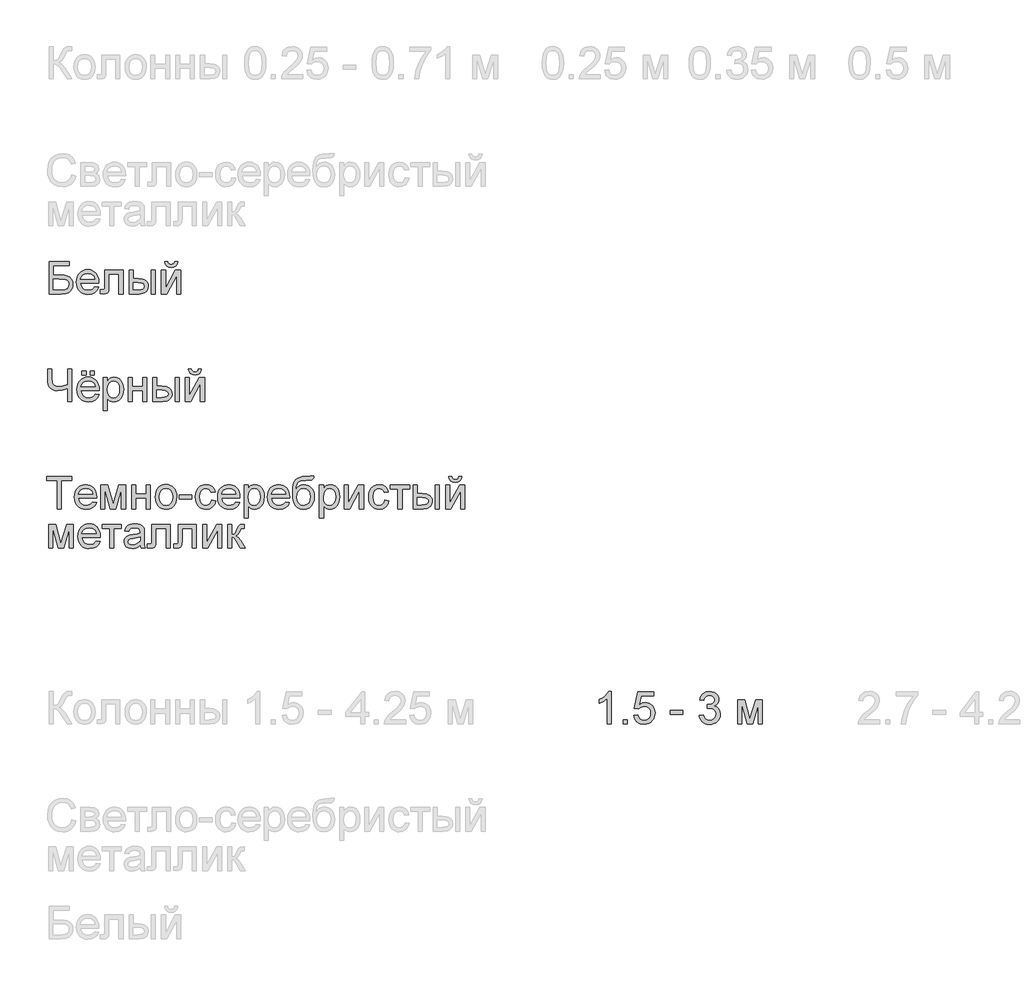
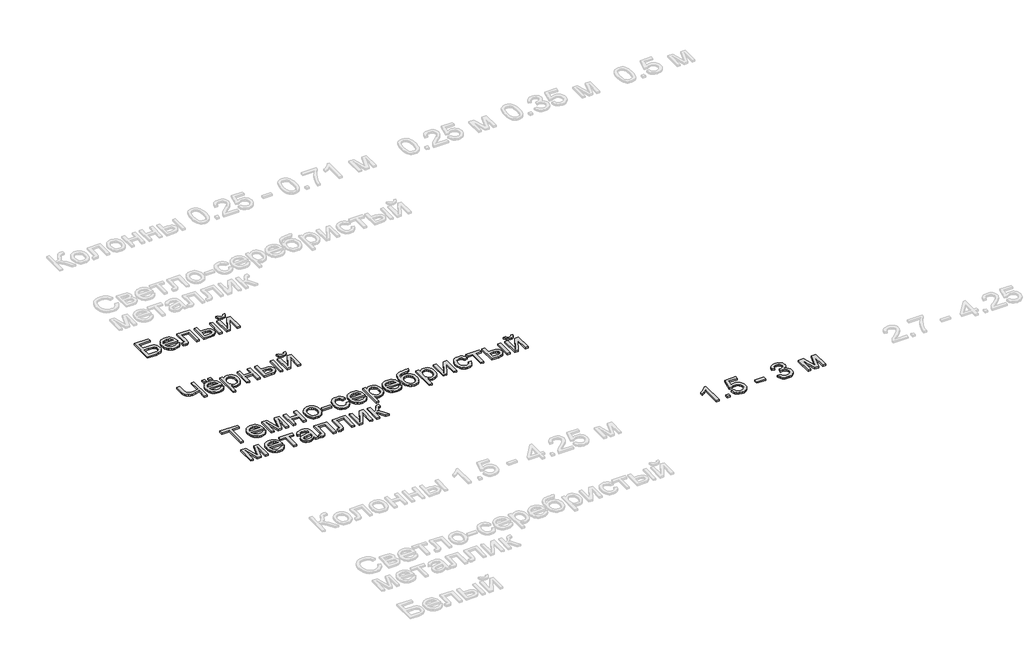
# One storey, part 10 of 168: 4 proxies.
"""IFC4 building model written with IfcOpenShell, lengths in millimetres."""

from ifc_helpers import new_model, si_unit, origin, origin_with_axes, place, context, project, spatial, polyline, outline, extrude, element, save

model = new_model("IFC4")

# Units and contexts
model_context = context("Model", 3, world=origin())
ifc_project = project(units=[si_unit("LENGTHUNIT", "METRE", prefix="MILLI")], contexts=[model_context])

# Site, building, storey
site = spatial("IfcSite", under=ifc_project)
building = spatial("IfcBuilding", under=site)
storey = spatial("IfcBuildingStorey", under=building, Name="Этаж 01", Elevation=0.0)

# Proxies
placement = place(None, origin())
element("IfcBuildingElementProxy", 1, Name="300 мм Arial 2", ObjectType="300 мм Arial 2", at=placement, inside=storey, context=model_context, shape_type="SweptSolid", body=[
    extrude(outline(polyline([(778.8177316, -32665.4933673), (967.1733131, -32665.4933673), (967.1733131, -32703.1644836), (816.4888479, -32703.1644836), (816.4888479, -32792.6333848), (887.0486145, -32792.6333848), (922.1261628, -32794.5463712), (949.2206717, -32800.2853303), (970.0243986, -32811.3401843), (986.2296004, -32829.2008551), (996.659055, -32852.1934798), (1000.1355399, -32878.6441953), (997.6615334, -32900.8550707), (990.2395142, -32921.5760241), (977.9062703, -32939.7218035), (960.69859, -32954.2071571), (934.155904, -32963.6985126), (893.8176433, -32966.8622977), (778.8177316, -32966.8622977), (778.8177316, -32665.4933673)]), holes=[polyline([(816.4888479, -32929.1911814), (897.2021576, -32929.1911814), (925.7314063, -32926.0825786), (946.130463, -32916.75677), (958.3809334, -32901.2137557), (962.4644236, -32879.4535357), (960.1283729, -32863.2483338), (953.1202209, -32849.9493997), (941.9458053, -32840.0901622), (927.1109638, -32834.2040503), (870.346772, -32830.3045011), (816.4888479, -32830.3045011), (816.4888479, -32929.1911814)])]), origin_with_axes(), (0.0, 0.0, 1.0), 20.0),
    extrude(outline(polyline([(1202.1763316, -32900.9378442), (1239.1116839, -32905.6467337), (1225.8035528, -32933.4770067), (1204.5675646, -32954.2807335), (1175.881966, -32967.2485738), (1140.2250036, -32971.5711873), (1116.8507014, -32969.7064854), (1096.0239819, -32964.1123798), (1077.7448453, -32954.7888705), (1062.0132914, -32941.7359575), (1049.3627493, -32925.3169242), (1040.3266478, -32905.8950541), (1034.9049869, -32883.4703472), (1033.0977666, -32858.0428036), (1034.923381, -32831.7530365), (1040.4002242, -32808.5810693), (1049.5282962, -32788.526902), (1062.307597, -32771.5905347), (1077.9977641, -32758.1352507), (1095.858435, -32748.5243336), (1115.8896096, -32742.7577833), (1138.0912881, -32740.8355999), (1159.5778958, -32742.7531848), (1179.008963, -32748.5059395), (1196.3844895, -32758.093864), (1211.7044753, -32771.5169583), (1224.2101639, -32788.4165374), (1233.1427986, -32808.4339165), (1238.5023794, -32831.5690955), (1240.2889063, -32857.8220744), (1240.0681771, -32867.9756174), (1070.7688829, -32867.9756174), (1077.2895913, -32896.1737724), (1092.4371325, -32916.9039228), (1114.29852, -32929.6510339), (1140.9607676, -32933.900071), (1161.0103364, -32931.9319023), (1177.8961199, -32926.0273963), (1191.6181184, -32915.8186709), (1202.1763316, -32900.9378442)]), holes=[polyline([(1070.7688829, -32830.3045011), (1202.61779, -32830.3045011), (1197.5226244, -32810.4020852), (1187.5346282, -32796.165052), (1165.5720731, -32782.9213001), (1137.9441353, -32778.5067162), (1112.5510805, -32782.0291863), (1091.5542157, -32792.5965966), (1076.9584975, -32809.068513), (1070.7688829, -32830.3045011)])]), origin_with_axes(), (0.0, 0.0, 1.0), 20.0),
    extrude(outline(polyline([(1296.7955808, -32745.5444894), (1466.3156041, -32745.5444894), (1466.3156041, -32966.6415685), (1428.6444878, -32966.6415685), (1428.6444878, -32783.2156057), (1334.4666971, -32783.2156057), (1334.4666971, -32888.7977384), (1331.9283113, -32937.5053145), (1327.1734365, -32948.5325773), (1317.9855837, -32958.069918), (1304.0428561, -32964.6642028), (1285.0233569, -32966.8622977), (1254.4155749, -32964.9493114), (1254.4155749, -32929.1911814), (1271.2645703, -32929.1911814), (1288.2975067, -32926.8735249), (1295.1033236, -32919.515885), (1296.7955808, -32886.6640228), (1296.7955808, -32745.5444894)])), origin_with_axes(), (0.0, 0.0, 1.0), 20.0),
    extrude(outline(polyline([(1730.0134183, -32745.5444894), (1767.6845346, -32745.5444894), (1767.6845346, -32966.8622977), (1730.0134183, -32966.8622977), (1730.0134183, -32745.5444894)])), origin_with_axes(), (0.0, 0.0, 1.0), 20.0),
    extrude(outline(polyline([(1522.8222786, -32745.5444894), (1560.4933949, -32745.5444894), (1560.4933949, -32825.5956116), (1607.0672555, -32825.5956116), (1647.3227428, -32830.3136982), (1663.539441, -32836.2113064), (1677.1487756, -32844.4679579), (1687.9162217, -32854.7985442), (1695.6072547, -32866.9179567), (1700.2218745, -32880.8261954), (1701.7600811, -32896.5232603), (1696.6005361, -32923.4798135), (1681.1219011, -32946.2241178), (1669.2600061, -32955.2533215), (1654.3125007, -32961.7027528), (1615.1606594, -32966.8622977), (1522.8222786, -32966.8622977), (1522.8222786, -32745.5444894)]), holes=[polyline([(1560.4933949, -32929.1911814), (1599.1945808, -32929.1911814), (1629.1953575, -32927.2138157), (1649.1529558, -32921.2817185), (1660.3549625, -32911.1557666), (1664.0889648, -32896.5968367), (1661.3206527, -32884.2911839), (1653.0157167, -32873.420271), (1635.2562134, -32865.8051137), (1604.1241995, -32863.2667279), (1560.4933949, -32863.2667279), (1560.4933949, -32929.1911814)])]), origin_with_axes(), (0.0, 0.0, 1.0), 20.0),
    extrude(outline(polyline([(1946.6223371, -32665.4933673), (1974.8756743, -32665.4933673), (1968.7964243, -32689.6172291), (1956.5919391, -32707.3951265), (1938.8140417, -32718.3488129), (1916.0145551, -32722.0000417), (1891.2744909, -32718.3764041), (1872.0894448, -32707.5054911), (1858.9744517, -32689.7551849), (1852.4445463, -32665.4933673), (1880.6978835, -32665.4933673), (1884.6710091, -32677.9001876), (1891.292885, -32686.7201584), (1900.6002995, -32691.990068), (1912.6300407, -32693.7467045), (1926.2048863, -32692.0452503), (1936.0273356, -32686.9408876), (1942.6492115, -32678.1760991), (1946.6223371, -32665.4933673)])), origin_with_axes(), (0.0, 0.0, 1.0), 20.0),
    extrude(outline(polyline([(1824.1912091, -32745.5444894), (1861.8623254, -32745.5444894), (1861.8623254, -32914.3287488), (1954.4214353, -32745.5444894), (2003.1290115, -32745.5444894), (2003.1290115, -32966.8622977), (1965.4578952, -32966.8622977), (1965.4578952, -32799.1081079), (1873.4873964, -32966.8622977), (1824.1912091, -32966.8622977), (1824.1912091, -32745.5444894)])), origin_with_axes(), (0.0, 0.0, 1.0), 20.0),
])
element("IfcBuildingElementProxy", 2, Name="300 мм Arial 2", ObjectType="300 мм Arial 2", at=placement, inside=storey, context=model_context, shape_type="SweptSolid", body=[
    extrude(outline(polyline([(990.7177608, -33966.8622977), (953.0466445, -33966.8622977), (953.0466445, -33846.1970033), (903.0882695, -33862.5309639), (859.7517705, -33867.9756174), (830.3855902, -33864.2508122), (804.6798358, -33853.0763966), (784.7590258, -33836.1722189), (772.7476786, -33815.2581275), (766.7052169, -33788.798215), (764.6910629, -33755.2565741), (764.6910629, -33665.4933673), (802.3621793, -33665.4933673), (802.3621793, -33750.1798026), (806.8871278, -33790.9135365), (812.5433135, -33804.968928), (820.4619734, -33814.8166691), (840.3827835, -33826.4325431), (863.9456252, -33830.3045011), (907.410883, -33825.6323998), (953.0466445, -33811.6160958), (953.0466445, -33665.4933673), (990.7177608, -33665.4933673), (990.7177608, -33966.8622977)])), origin_with_axes(), (0.0, 0.0, 1.0), 20.0),
    extrude(outline(polyline([(1206.8852212, -33900.9378442), (1243.8205735, -33905.6467337), (1230.5124423, -33933.4770067), (1209.2764541, -33954.2807335), (1180.5908555, -33967.2485738), (1144.9338932, -33971.5711873), (1121.5595909, -33969.7064854), (1100.7328714, -33964.1123798), (1082.4537348, -33954.7888705), (1066.722181, -33941.7359575), (1054.0716389, -33925.3169242), (1045.0355374, -33905.8950541), (1039.6138765, -33883.4703472), (1037.8066562, -33858.0428036), (1039.6322706, -33831.7530365), (1045.1091138, -33808.5810693), (1054.2371858, -33788.526902), (1067.0164866, -33771.5905347), (1082.7066537, -33758.1352507), (1100.5673245, -33748.5243336), (1120.5984992, -33742.7577833), (1142.8001776, -33740.8355999), (1164.2867854, -33742.7531848), (1183.7178525, -33748.5059395), (1201.093379, -33758.093864), (1216.4133648, -33771.5169583), (1228.9190534, -33788.4165374), (1237.8516881, -33808.4339165), (1243.2112689, -33831.5690955), (1244.9977959, -33857.8220744), (1244.7770667, -33867.9756174), (1075.4777725, -33867.9756174), (1081.9984808, -33896.1737724), (1097.146022, -33916.9039228), (1119.0074096, -33929.6510339), (1145.6696572, -33933.900071), (1165.7192259, -33931.9319023), (1182.6050095, -33926.0273963), (1196.3270079, -33915.8186709), (1206.8852212, -33900.9378442)]), holes=[polyline([(1075.4777725, -33830.3045011), (1207.3266795, -33830.3045011), (1202.2315139, -33810.4020852), (1192.2435177, -33796.165052), (1170.2809626, -33782.9213001), (1142.6530248, -33778.5067162), (1117.2599701, -33782.0291863), (1096.2631052, -33792.5965966), (1081.667387, -33809.068513), (1075.4777725, -33830.3045011)])]), origin_with_axes(), (0.0, 0.0, 1.0), 20.0),
    extrude(outline(polyline([(1084.8955515, -33722.0000417), (1084.8955515, -33684.3289254), (1122.5666679, -33684.3289254), (1122.5666679, -33722.0000417), (1084.8955515, -33722.0000417)])), origin_with_axes(), (0.0, 0.0, 1.0), 20.0),
    extrude(outline(polyline([(1160.2377842, -33722.0000417), (1160.2377842, -33684.3289254), (1197.9089005, -33684.3289254), (1197.9089005, -33722.0000417), (1160.2377842, -33722.0000417)])), origin_with_axes(), (0.0, 0.0, 1.0), 20.0),
    extrude(outline(polyline([(1282.6689122, -34051.6223094), (1282.6689122, -33745.5444894), (1320.3400285, -33745.5444894), (1320.3400285, -33782.4798418), (1332.6272871, -33764.2604859), (1346.3860737, -33751.2466604), (1362.4257287, -33743.438365), (1381.5555925, -33740.8355999), (1407.0314206, -33744.4776316), (1429.3066754, -33755.4037269), (1447.4432578, -33772.9516981), (1460.5030686, -33796.4593576), (1468.3941374, -33824.2160541), (1471.0244937, -33854.5111364), (1468.0538466, -33886.7284021), (1459.1419052, -33915.5427594), (1444.5737782, -33939.4918773), (1424.6345741, -33957.1134249), (1401.4120231, -33967.9567467), (1376.9938557, -33971.5711873), (1359.6758108, -33969.1523632), (1344.2155699, -33961.8958908), (1330.9810152, -33950.9422044), (1320.3400285, -33937.4317381), (1320.3400285, -34051.6223094), (1282.6689122, -34051.6223094)]), holes=[polyline([(1320.3400285, -33857.9692272), (1324.4143216, -33891.7407943), (1336.6372008, -33915.3588184), (1354.6726157, -33929.2647578), (1376.1845153, -33933.900071), (1398.0459029, -33929.0992109), (1416.5411702, -33914.6966308), (1429.1503256, -33890.214084), (1433.3533774, -33855.173324), (1429.2514931, -33821.5856978), (1416.9458404, -33797.63658), (1398.9380167, -33783.2891821), (1377.7296197, -33778.5067162), (1356.4384492, -33783.5926848), (1337.7408468, -33798.8505905), (1324.6902331, -33823.8021869), (1320.3400285, -33857.9692272)])]), origin_with_axes(), (0.0, 0.0, 1.0), 20.0),
    extrude(outline(polyline([(1513.4044995, -33745.5444894), (1551.0756158, -33745.5444894), (1551.0756158, -33830.3045011), (1649.9622961, -33830.3045011), (1649.9622961, -33745.5444894), (1687.6334124, -33745.5444894), (1687.6334124, -33966.8622977), (1649.9622961, -33966.8622977), (1649.9622961, -33867.9756174), (1551.0756158, -33867.9756174), (1551.0756158, -33966.8622977), (1513.4044995, -33966.8622977), (1513.4044995, -33745.5444894)])), origin_with_axes(), (0.0, 0.0, 1.0), 20.0),
    extrude(outline(polyline([(1951.3312266, -33745.5444894), (1989.0023429, -33745.5444894), (1989.0023429, -33966.8622977), (1951.3312266, -33966.8622977), (1951.3312266, -33745.5444894)])), origin_with_axes(), (0.0, 0.0, 1.0), 20.0),
    extrude(outline(polyline([(1744.1400869, -33745.5444894), (1781.8112032, -33745.5444894), (1781.8112032, -33825.5956116), (1828.3850638, -33825.5956116), (1868.6405511, -33830.3136982), (1884.8572493, -33836.2113064), (1898.4665839, -33844.4679579), (1909.23403, -33854.7985442), (1916.925063, -33866.9179567), (1921.5396828, -33880.8261954), (1923.0778894, -33896.5232603), (1917.9183444, -33923.4798135), (1902.4397094, -33946.2241178), (1890.5778143, -33955.2533215), (1875.630309, -33961.7027528), (1836.4784677, -33966.8622977), (1744.1400869, -33966.8622977), (1744.1400869, -33745.5444894)]), holes=[polyline([(1781.8112032, -33929.1911814), (1820.5123891, -33929.1911814), (1850.5131658, -33927.2138157), (1870.4707641, -33921.2817185), (1881.6727708, -33911.1557666), (1885.4067731, -33896.5968367), (1882.638461, -33884.2911839), (1874.333525, -33873.420271), (1856.5740217, -33865.8051137), (1825.4420078, -33863.2667279), (1781.8112032, -33863.2667279), (1781.8112032, -33929.1911814)])]), origin_with_axes(), (0.0, 0.0, 1.0), 20.0),
    extrude(outline(polyline([(2045.5090174, -33745.5444894), (2083.1801337, -33745.5444894), (2083.1801337, -33914.3287488), (2175.7392436, -33745.5444894), (2224.4468198, -33745.5444894), (2224.4468198, -33966.8622977), (2186.7757035, -33966.8622977), (2186.7757035, -33799.1081079), (2094.8052047, -33966.8622977), (2045.5090174, -33966.8622977), (2045.5090174, -33745.5444894)])), origin_with_axes(), (0.0, 0.0, 1.0), 20.0),
    extrude(outline(polyline([(2167.9401454, -33665.4933673), (2196.1934826, -33665.4933673), (2190.1142326, -33689.6172291), (2177.9097474, -33707.3951265), (2160.13185, -33718.3488129), (2137.3323634, -33722.0000417), (2112.5922992, -33718.3764041), (2093.4072531, -33707.5054911), (2080.29226, -33689.7551849), (2073.7623546, -33665.4933673), (2102.0156918, -33665.4933673), (2105.9888174, -33677.9001876), (2112.6106933, -33686.7201584), (2121.9181078, -33691.990068), (2133.947849, -33693.7467045), (2147.5226946, -33692.0452503), (2157.3451439, -33686.9408876), (2163.9670198, -33678.1760991), (2167.9401454, -33665.4933673)])), origin_with_axes(), (0.0, 0.0, 1.0), 20.0),
])
element("IfcBuildingElementProxy", 3, Name="300 мм Arial 2", ObjectType="300 мм Arial 2", at=placement, inside=storey, context=model_context, shape_type="SweptSolid", body=[
    extrude(outline(polyline([(854.1599642, -34966.8622977), (854.1599642, -34703.1644836), (755.2732839, -34703.1644836), (755.2732839, -34665.4933673), (990.7177608, -34665.4933673), (990.7177608, -34703.1644836), (891.8310805, -34703.1644836), (891.8310805, -34966.8622977), (854.1599642, -34966.8622977)])), origin_with_axes(), (0.0, 0.0, 1.0), 20.0),
    extrude(outline(polyline([(1183.3407735, -34900.9378442), (1220.2761258, -34905.6467337), (1206.9679946, -34933.4770067), (1185.7320064, -34954.2807335), (1157.0464079, -34967.2485738), (1121.3894455, -34971.5711873), (1098.0151432, -34969.7064854), (1077.1884238, -34964.1123798), (1058.9092871, -34954.7888705), (1043.1777333, -34941.7359575), (1030.5271912, -34925.3169242), (1021.4910897, -34905.8950541), (1016.0694288, -34883.4703472), (1014.2622085, -34858.0428036), (1016.0878229, -34831.7530365), (1021.5646661, -34808.5810693), (1030.6927381, -34788.526902), (1043.4720389, -34771.5905347), (1059.162206, -34758.1352507), (1077.0228769, -34748.5243336), (1097.0540515, -34742.7577833), (1119.2557299, -34740.8355999), (1140.7423377, -34742.7531848), (1160.1734048, -34748.5059395), (1177.5489313, -34758.093864), (1192.8689171, -34771.5169583), (1205.3746057, -34788.4165374), (1214.3072404, -34808.4339165), (1219.6668212, -34831.5690955), (1221.4533482, -34857.8220744), (1221.232619, -34867.9756174), (1051.9333248, -34867.9756174), (1058.4540331, -34896.1737724), (1073.6015743, -34916.9039228), (1095.4629619, -34929.6510339), (1122.1252095, -34933.900071), (1142.1747782, -34931.9319023), (1159.0605618, -34926.0273963), (1172.7825602, -34915.8186709), (1183.3407735, -34900.9378442)]), holes=[polyline([(1051.9333248, -34830.3045011), (1183.7822319, -34830.3045011), (1178.6870662, -34810.4020852), (1168.6990701, -34796.165052), (1146.7365149, -34782.9213001), (1119.1085771, -34778.5067162), (1093.7155224, -34782.0291863), (1072.7186575, -34792.5965966), (1058.1229394, -34809.068513), (1051.9333248, -34830.3045011)])]), origin_with_axes(), (0.0, 0.0, 1.0), 20.0),
    extrude(outline(polyline([(1259.1244645, -34745.5444894), (1323.945272, -34745.5444894), (1373.903647, -34922.7164583), (1427.7615711, -34745.5444894), (1489.8600518, -34745.5444894), (1489.8600518, -34966.8622977), (1452.1889355, -34966.8622977), (1452.1889355, -34788.6602593), (1398.0367058, -34966.8622977), (1348.5933657, -34966.8622977), (1296.7955808, -34780.125397), (1296.7955808, -34966.8622977), (1259.1244645, -34966.8622977), (1259.1244645, -34745.5444894)])), origin_with_axes(), (0.0, 0.0, 1.0), 20.0),
    extrude(outline(polyline([(1546.3667263, -34745.5444894), (1584.0378426, -34745.5444894), (1584.0378426, -34830.3045011), (1682.9245229, -34830.3045011), (1682.9245229, -34745.5444894), (1720.5956392, -34745.5444894), (1720.5956392, -34966.8622977), (1682.9245229, -34966.8622977), (1682.9245229, -34867.9756174), (1584.0378426, -34867.9756174), (1584.0378426, -34966.8622977), (1546.3667263, -34966.8622977), (1546.3667263, -34745.5444894)])), origin_with_axes(), (0.0, 0.0, 1.0), 20.0),
    extrude(outline(polyline([(1767.6845346, -34856.2033936), (1769.7216811, -34827.5407876), (1775.8331208, -34802.8421102), (1786.0188535, -34782.1073612), (1800.2788794, -34765.3365408), (1814.6354742, -34754.6173791), (1830.4819912, -34746.9608351), (1847.8184302, -34742.3669087), (1866.6447913, -34740.8355999), (1887.4278248, -34742.7003018), (1906.2196969, -34748.2944073), (1923.0204078, -34757.6179167), (1937.8299574, -34770.6708297), (1949.9171802, -34787.0116881), (1958.5509107, -34806.1990334), (1963.7311491, -34828.2328656), (1965.4578952, -34853.1131848), (1962.4044746, -34891.1705772), (1953.244213, -34920.1412843), (1938.2438246, -34941.837125), (1917.670024, -34958.069918), (1893.2334625, -34968.19587), (1866.6447913, -34971.5711873), (1845.5582552, -34969.7133832), (1826.5916391, -34964.139971), (1809.744943, -34954.8509506), (1795.0181668, -34941.8463221), (1783.0597027, -34925.3468146), (1774.5179427, -34905.5731573), (1769.3928866, -34882.5253503), (1767.6845346, -34856.2033936)]), holes=[polyline([(1805.3556509, -34856.1298172), (1809.7150525, -34890.2232811), (1822.7932575, -34914.5126898), (1842.4749442, -34929.0532257), (1866.6447913, -34933.900071), (1890.7042738, -34929.0256345), (1910.3491723, -34914.4023252), (1923.4273773, -34889.7910197), (1927.7867789, -34854.9525948), (1923.3997861, -34821.8524123), (1910.2388077, -34797.8940973), (1890.566318, -34783.3535615), (1866.6447913, -34778.5067162), (1842.4749442, -34783.3351674), (1822.7932575, -34797.8205209), (1809.7150525, -34822.0547474), (1805.3556509, -34856.1298172)])]), origin_with_axes(), (0.0, 0.0, 1.0), 20.0),
    extrude(outline(polyline([(1989.0023429, -34877.3933965), (1989.0023429, -34839.7222802), (2106.7245814, -34839.7222802), (2106.7245814, -34877.3933965), (1989.0023429, -34877.3933965)])), origin_with_axes(), (0.0, 0.0, 1.0), 20.0),
    extrude(outline(polyline([(2290.3712733, -34886.8111756), (2328.0423897, -34891.5200651), (2317.5393587, -34925.0249178), (2297.8024896, -34950.3443962), (2270.6895866, -34966.2644895), (2238.0584536, -34971.5711873), (2216.9305308, -34969.720281), (2197.9869073, -34964.1675621), (2181.2275832, -34954.9130307), (2166.6525584, -34941.9566867), (2154.8550426, -34925.5422519), (2146.4282457, -34905.9134482), (2141.3721675, -34883.0702755), (2139.6868081, -34857.012734), (2142.5654847, -34823.4894872), (2151.2015146, -34794.4360066), (2165.7328534, -34770.9743324), (2186.2974569, -34754.2265045), (2210.8995653, -34744.1833261), (2237.5434188, -34740.8355999), (2269.3744085, -34745.4341248), (2294.8226455, -34759.2296997), (2313.0787895, -34781.4865604), (2323.3335001, -34811.468943), (2285.6623838, -34816.1778325), (2278.8289757, -34799.7427044), (2268.187989, -34787.9612835), (2254.3280349, -34780.870358), (2237.8377244, -34778.5067162), (2213.4931334, -34783.1604234), (2194.1701316, -34797.1215452), (2181.5609762, -34821.1442394), (2177.3579244, -34855.9826644), (2181.4690057, -34891.2901389), (2193.8022496, -34915.3956066), (2212.7757635, -34929.2739549), (2236.8076548, -34933.900071), (2256.3145976, -34931.0121973), (2272.3082674, -34922.3485763), (2283.9425355, -34907.6884788), (2290.3712733, -34886.8111756)])), origin_with_axes(), (0.0, 0.0, 1.0), 20.0),
    extrude(outline(polyline([(2515.9565128, -34900.9378442), (2552.8918651, -34905.6467337), (2539.5837339, -34933.4770067), (2518.3477458, -34954.2807335), (2489.6621472, -34967.2485738), (2454.0051848, -34971.5711873), (2430.6308825, -34969.7064854), (2409.8041631, -34964.1123798), (2391.5250264, -34954.7888705), (2375.7934726, -34941.7359575), (2363.1429305, -34925.3169242), (2354.106829, -34905.8950541), (2348.6851681, -34883.4703472), (2346.8779478, -34858.0428036), (2348.7035622, -34831.7530365), (2354.1804054, -34808.5810693), (2363.3084774, -34788.526902), (2376.0877782, -34771.5905347), (2391.7779453, -34758.1352507), (2409.6386162, -34748.5243336), (2429.6697908, -34742.7577833), (2451.8714692, -34740.8355999), (2473.358077, -34742.7531848), (2492.7891441, -34748.5059395), (2510.1646706, -34758.093864), (2525.4846565, -34771.5169583), (2537.990345, -34788.4165374), (2546.9229797, -34808.4339165), (2552.2825605, -34831.5690955), (2554.0690875, -34857.8220744), (2553.8483583, -34867.9756174), (2384.5490641, -34867.9756174), (2391.0697725, -34896.1737724), (2406.2173136, -34916.9039228), (2428.0787012, -34929.6510339), (2454.7409488, -34933.900071), (2474.7905175, -34931.9319023), (2491.6763011, -34926.0273963), (2505.3982995, -34915.8186709), (2515.9565128, -34900.9378442)]), holes=[polyline([(2384.5490641, -34830.3045011), (2516.3979712, -34830.3045011), (2511.3028055, -34810.4020852), (2501.3148094, -34796.165052), (2479.3522543, -34782.9213001), (2451.7243164, -34778.5067162), (2426.3312617, -34782.0291863), (2405.3343968, -34792.5965966), (2390.7386787, -34809.068513), (2384.5490641, -34830.3045011)])]), origin_with_axes(), (0.0, 0.0, 1.0), 20.0),
    extrude(outline(polyline([(2591.7402038, -35051.6223094), (2591.7402038, -34745.5444894), (2629.4113201, -34745.5444894), (2629.4113201, -34782.4798418), (2641.6985787, -34764.2604859), (2655.4573654, -34751.2466604), (2671.4970203, -34743.438365), (2690.6268841, -34740.8355999), (2716.1027123, -34744.4776316), (2738.3779671, -34755.4037269), (2756.5145494, -34772.9516981), (2769.5743603, -34796.4593576), (2777.4654291, -34824.2160541), (2780.0957853, -34854.5111364), (2777.1251382, -34886.7284021), (2768.2131969, -34915.5427594), (2753.6450699, -34939.4918773), (2733.7058657, -34957.1134249), (2710.4833148, -34967.9567467), (2686.0651474, -34971.5711873), (2668.7471024, -34969.1523632), (2653.2868616, -34961.8958908), (2640.0523068, -34950.9422044), (2629.4113201, -34937.4317381), (2629.4113201, -35051.6223094), (2591.7402038, -35051.6223094)]), holes=[polyline([(2629.4113201, -34857.9692272), (2633.4856132, -34891.7407943), (2645.7084925, -34915.3588184), (2663.7439073, -34929.2647578), (2685.255807, -34933.900071), (2707.1171945, -34929.0992109), (2725.6124618, -34914.6966308), (2738.2216172, -34890.214084), (2742.424669, -34855.173324), (2738.3227848, -34821.5856978), (2726.017132, -34797.63658), (2708.0093084, -34783.2891821), (2686.8009113, -34778.5067162), (2665.5097409, -34783.5926848), (2646.8121385, -34798.8505905), (2633.7615247, -34823.8021869), (2629.4113201, -34857.9692272)])]), origin_with_axes(), (0.0, 0.0, 1.0), 20.0),
    extrude(outline(polyline([(2977.4276875, -34900.9378442), (3014.3630399, -34905.6467337), (3001.0549087, -34933.4770067), (2979.8189205, -34954.2807335), (2951.1333219, -34967.2485738), (2915.4763595, -34971.5711873), (2892.1020573, -34969.7064854), (2871.2753378, -34964.1123798), (2852.9962012, -34954.7888705), (2837.2646474, -34941.7359575), (2824.6141053, -34925.3169242), (2815.5780038, -34905.8950541), (2810.1563429, -34883.4703472), (2808.3491226, -34858.0428036), (2810.174737, -34831.7530365), (2815.6515802, -34808.5810693), (2824.7796522, -34788.526902), (2837.558953, -34771.5905347), (2853.2491201, -34758.1352507), (2871.1097909, -34748.5243336), (2891.1409656, -34742.7577833), (2913.342644, -34740.8355999), (2934.8292518, -34742.7531848), (2954.2603189, -34748.5059395), (2971.6358454, -34758.093864), (2986.9558312, -34771.5169583), (2999.4615198, -34788.4165374), (3008.3941545, -34808.4339165), (3013.7537353, -34831.5690955), (3015.5402622, -34857.8220744), (3015.319533, -34867.9756174), (2846.0202389, -34867.9756174), (2852.5409472, -34896.1737724), (2867.6884884, -34916.9039228), (2889.5498759, -34929.6510339), (2916.2121235, -34933.900071), (2936.2616923, -34931.9319023), (2953.1474759, -34926.0273963), (2966.8694743, -34915.8186709), (2977.4276875, -34900.9378442)]), holes=[polyline([(2846.0202389, -34830.3045011), (2977.8691459, -34830.3045011), (2972.7739803, -34810.4020852), (2962.7859841, -34796.165052), (2940.823429, -34782.9213001), (2913.1954912, -34778.5067162), (2887.8024365, -34782.0291863), (2866.8055716, -34792.5965966), (2852.2098534, -34809.068513), (2846.0202389, -34830.3045011)])]), origin_with_axes(), (0.0, 0.0, 1.0), 20.0),
    extrude(outline(polyline([(3208.6047333, -34660.7844777), (3241.5669601, -34660.7844777), (3237.9985047, -34678.6911339), (3231.8548754, -34690.1782492), (3223.3384072, -34696.974869), (3212.6514353, -34700.8100388), (3166.5190331, -34703.1644836), (3128.2133203, -34705.3349874), (3104.3837641, -34711.8464987), (3090.1283368, -34723.1404759), (3080.5450108, -34739.6583775), (3074.9072192, -34761.5289621), (3072.4883951, -34788.8809885), (3087.6359362, -34767.8381383), (3105.1195281, -34752.8285529), (3124.9575647, -34743.8338382), (3147.1684401, -34740.8355999), (3167.6916569, -34742.7416885), (3186.3662667, -34748.4599542), (3203.1922695, -34757.9903972), (3218.1696652, -34771.3330173), (3230.4661209, -34787.9267945), (3239.2493035, -34807.2107089), (3244.5192131, -34829.1847603), (3246.2758496, -34853.8489488), (3242.7901677, -34889.8094138), (3232.333122, -34918.6697564), (3217.0936103, -34941.101361), (3199.2605306, -34957.7756125), (3176.6725761, -34968.1222936), (3147.1684401, -34971.5711873), (3113.1669467, -34967.1290122), (3087.6819215, -34953.8024869), (3068.9291368, -34933.5505831), (3055.1243649, -34908.3322723), (3046.6262908, -34870.3576533), (3043.7935995, -34811.836825), (3045.5801264, -34772.1722481), (3050.9397072, -34739.55721), (3059.8723419, -34713.9917106), (3072.3780305, -34695.4757499), (3088.5901302, -34682.3584575), (3108.6419982, -34672.9889629), (3132.5336345, -34667.3672662), (3160.2650391, -34665.4933673), (3202.2035866, -34664.6472387), (3208.6047333, -34660.7844777)]), holes=[polyline([(3208.6047333, -34852.6717264), (3204.5212432, -34823.0296347), (3192.2707727, -34799.2920489), (3172.589086, -34783.7030494), (3146.2119469, -34778.5067162), (3118.7127678, -34783.997355), (3107.6257242, -34790.8606535), (3098.3137112, -34800.4692713), (3085.6769646, -34826.1198434), (3081.4647158, -34859.1464495), (3086.118423, -34891.1613802), (3100.0795447, -34914.6598426), (3120.8648775, -34929.0900139), (3145.9912177, -34933.900071), (3171.2463167, -34928.3358558), (3191.2407031, -34911.6432103), (3204.2637258, -34885.7719089), (3208.6047333, -34852.6717264)])]), origin_with_axes(), (0.0, 0.0, 1.0), 20.0),
    extrude(outline(polyline([(3293.364745, -35051.6223094), (3293.364745, -34745.5444894), (3331.0358613, -34745.5444894), (3331.0358613, -34782.4798418), (3343.3231199, -34764.2604859), (3357.0819066, -34751.2466604), (3373.1215615, -34743.438365), (3392.2514253, -34740.8355999), (3417.7272535, -34744.4776316), (3440.0025083, -34755.4037269), (3458.1390906, -34772.9516981), (3471.1989015, -34796.4593576), (3479.0899703, -34824.2160541), (3481.7203265, -34854.5111364), (3478.7496794, -34886.7284021), (3469.8377381, -34915.5427594), (3455.2696111, -34939.4918773), (3435.3304069, -34957.1134249), (3412.107856, -34967.9567467), (3387.6896886, -34971.5711873), (3370.3716436, -34969.1523632), (3354.9114028, -34961.8958908), (3341.676848, -34950.9422044), (3331.0358613, -34937.4317381), (3331.0358613, -35051.6223094), (3293.364745, -35051.6223094)]), holes=[polyline([(3331.0358613, -34857.9692272), (3335.1101544, -34891.7407943), (3347.3330337, -34915.3588184), (3365.3684485, -34929.2647578), (3386.8803482, -34933.900071), (3408.7417357, -34929.0992109), (3427.237003, -34914.6966308), (3439.8461584, -34890.214084), (3444.0492102, -34855.173324), (3439.947326, -34821.5856978), (3427.6416732, -34797.63658), (3409.6338496, -34783.2891821), (3388.4254525, -34778.5067162), (3367.1342821, -34783.5926848), (3348.4366797, -34798.8505905), (3335.3860659, -34823.8021869), (3331.0358613, -34857.9692272)])]), origin_with_axes(), (0.0, 0.0, 1.0), 20.0),
    extrude(outline(polyline([(3524.1003324, -34745.5444894), (3561.7714487, -34745.5444894), (3561.7714487, -34914.3287488), (3654.3305587, -34745.5444894), (3703.0381348, -34745.5444894), (3703.0381348, -34966.8622977), (3665.3670185, -34966.8622977), (3665.3670185, -34799.1081079), (3573.3965197, -34966.8622977), (3524.1003324, -34966.8622977), (3524.1003324, -34745.5444894)])), origin_with_axes(), (0.0, 0.0, 1.0), 20.0),
    extrude(outline(polyline([(3900.8114954, -34886.8111756), (3938.4826117, -34891.5200651), (3927.9795808, -34925.0249178), (3908.2427117, -34950.3443962), (3881.1298087, -34966.2644895), (3848.4986757, -34971.5711873), (3827.3707529, -34969.720281), (3808.4271294, -34964.1675621), (3791.6678052, -34954.9130307), (3777.0927805, -34941.9566867), (3765.2952647, -34925.5422519), (3756.8684678, -34905.9134482), (3751.8123896, -34883.0702755), (3750.1270302, -34857.012734), (3753.0057068, -34823.4894872), (3761.6417367, -34794.4360066), (3776.1730755, -34770.9743324), (3796.737679, -34754.2265045), (3821.3397874, -34744.1833261), (3847.9836409, -34740.8355999), (3879.8146306, -34745.4341248), (3905.2628676, -34759.2296997), (3923.5190116, -34781.4865604), (3933.7737222, -34811.468943), (3896.1026059, -34816.1778325), (3889.2691978, -34799.7427044), (3878.6282111, -34787.9612835), (3864.768257, -34780.870358), (3848.2779465, -34778.5067162), (3823.9333555, -34783.1604234), (3804.6103537, -34797.1215452), (3792.0011983, -34821.1442394), (3787.7981465, -34855.9826644), (3791.9092278, -34891.2901389), (3804.2424717, -34915.3956066), (3823.2159856, -34929.2739549), (3847.2478769, -34933.900071), (3866.7548197, -34931.0121973), (3882.7484895, -34922.3485763), (3894.3827576, -34907.6884788), (3900.8114954, -34886.8111756)])), origin_with_axes(), (0.0, 0.0, 1.0), 20.0),
    extrude(outline(polyline([(3952.6092804, -34745.5444894), (4131.5470828, -34745.5444894), (4131.5470828, -34783.2156057), (4060.9137397, -34783.2156057), (4060.9137397, -34966.8622977), (4023.2426234, -34966.8622977), (4023.2426234, -34783.2156057), (3952.6092804, -34783.2156057), (3952.6092804, -34745.5444894)])), origin_with_axes(), (0.0, 0.0, 1.0), 20.0),
    extrude(outline(polyline([(4371.7004493, -34745.5444894), (4409.3715656, -34745.5444894), (4409.3715656, -34966.8622977), (4371.7004493, -34966.8622977), (4371.7004493, -34745.5444894)])), origin_with_axes(), (0.0, 0.0, 1.0), 20.0),
    extrude(outline(polyline([(4164.5093096, -34745.5444894), (4202.1804259, -34745.5444894), (4202.1804259, -34825.5956116), (4248.7542865, -34825.5956116), (4289.0097738, -34830.3136982), (4305.226472, -34836.2113064), (4318.8358066, -34844.4679579), (4329.6032527, -34854.7985442), (4337.2942857, -34866.9179567), (4341.9089054, -34880.8261954), (4343.447112, -34896.5232603), (4338.287567, -34923.4798135), (4322.8089321, -34946.2241178), (4310.947037, -34955.2533215), (4295.9995317, -34961.7027528), (4256.8476904, -34966.8622977), (4164.5093096, -34966.8622977), (4164.5093096, -34745.5444894)]), holes=[polyline([(4202.1804259, -34929.1911814), (4240.8816118, -34929.1911814), (4270.8823885, -34927.2138157), (4290.8399867, -34921.2817185), (4302.0419935, -34911.1557666), (4305.7759957, -34896.5968367), (4303.0076837, -34884.2911839), (4294.7027477, -34873.420271), (4276.9432443, -34865.8051137), (4245.8112305, -34863.2667279), (4202.1804259, -34863.2667279), (4202.1804259, -34929.1911814)])]), origin_with_axes(), (0.0, 0.0, 1.0), 20.0),
    extrude(outline(polyline([(4465.87824, -34745.5444894), (4503.5493563, -34745.5444894), (4503.5493563, -34914.3287488), (4596.1084663, -34745.5444894), (4644.8160425, -34745.5444894), (4644.8160425, -34966.8622977), (4607.1449262, -34966.8622977), (4607.1449262, -34799.1081079), (4515.1744274, -34966.8622977), (4465.87824, -34966.8622977), (4465.87824, -34745.5444894)])), origin_with_axes(), (0.0, 0.0, 1.0), 20.0),
    extrude(outline(polyline([(4588.309368, -34665.4933673), (4616.5627052, -34665.4933673), (4610.4834553, -34689.6172291), (4598.2789701, -34707.3951265), (4580.5010727, -34718.3488129), (4557.701586, -34722.0000417), (4532.9615218, -34718.3764041), (4513.7764758, -34707.5054911), (4500.6614827, -34689.7551849), (4494.1315773, -34665.4933673), (4522.3849145, -34665.4933673), (4526.35804, -34677.9001876), (4532.9799159, -34686.7201584), (4542.2873304, -34691.990068), (4554.3170717, -34693.7467045), (4567.8919173, -34692.0452503), (4577.7143666, -34686.9408876), (4584.3362425, -34678.1760991), (4588.309368, -34665.4933673)])), origin_with_axes(), (0.0, 0.0, 1.0), 20.0),
    extrude(outline(polyline([(774.108842, -35111.468943), (838.9296496, -35111.468943), (888.8880245, -35288.6409118), (942.7459486, -35111.468943), (1004.8444294, -35111.468943), (1004.8444294, -35332.7867513), (967.1733131, -35332.7867513), (967.1733131, -35154.5847128), (913.0210834, -35332.7867513), (863.5777433, -35332.7867513), (811.7799583, -35146.0498505), (811.7799583, -35332.7867513), (774.108842, -35332.7867513), (774.108842, -35111.468943)])), origin_with_axes(), (0.0, 0.0, 1.0), 20.0),
    extrude(outline(polyline([(1216.3030002, -35266.8622977), (1253.2383525, -35271.5711873), (1239.9302214, -35299.4014602), (1218.6942332, -35320.205187), (1190.0086346, -35333.1730274), (1154.3516722, -35337.4956408), (1130.97737, -35335.6309389), (1110.1506505, -35330.0368334), (1091.8715139, -35320.713324), (1076.1399601, -35307.660411), (1063.489418, -35291.2413777), (1054.4533164, -35271.8195076), (1049.0316555, -35249.3948008), (1047.2244352, -35223.9672571), (1049.0500496, -35197.67749), (1054.5268928, -35174.5055228), (1063.6549649, -35154.4513556), (1076.4342657, -35137.5149882), (1092.1244328, -35124.0597043), (1109.9851036, -35114.4487871), (1130.0162783, -35108.6822369), (1152.2179567, -35106.7600534), (1173.7045644, -35108.6776383), (1193.1356316, -35114.430393), (1210.5111581, -35124.0183175), (1225.8311439, -35137.4414118), (1238.3368325, -35154.340991), (1247.2694672, -35174.35837), (1252.629048, -35197.493549), (1254.4155749, -35223.7465279), (1254.1948457, -35233.900071), (1084.8955515, -35233.900071), (1091.4162599, -35262.0982259), (1106.5638011, -35282.8283763), (1128.4251886, -35295.5754875), (1155.0874362, -35299.8245245), (1175.137005, -35297.8563558), (1192.0227885, -35291.9518498), (1205.744787, -35281.7431244), (1216.3030002, -35266.8622977)]), holes=[polyline([(1084.8955515, -35196.2289547), (1216.7444586, -35196.2289547), (1211.649293, -35176.3265387), (1201.6612968, -35162.0895055), (1179.6987417, -35148.8457537), (1152.0708039, -35144.4311697), (1126.6777492, -35147.9536398), (1105.6808843, -35158.5210502), (1091.0851661, -35174.9929665), (1084.8955515, -35196.2289547)])]), origin_with_axes(), (0.0, 0.0, 1.0), 20.0),
    extrude(outline(polyline([(1273.2511331, -35111.468943), (1452.1889355, -35111.468943), (1452.1889355, -35149.1400593), (1381.5555925, -35149.1400593), (1381.5555925, -35332.7867513), (1343.8844762, -35332.7867513), (1343.8844762, -35149.1400593), (1273.2511331, -35149.1400593), (1273.2511331, -35111.468943)])), origin_with_axes(), (0.0, 0.0, 1.0), 20.0),
    extrude(outline(polyline([(1626.4178484, -35304.533414), (1608.4192218, -35319.9660637), (1589.8871663, -35330.0644245), (1570.3986176, -35335.6378367), (1549.5305115, -35337.4956408), (1518.0490097, -35333.0258746), (1494.8264588, -35319.6165758), (1480.5066521, -35299.2543074), (1475.7333832, -35273.925632), (1477.536005, -35258.3090413), (1482.9438703, -35244.1271904), (1491.2855946, -35231.9870846), (1501.8897931, -35222.4957291), (1528.2669321, -35210.1348941), (1560.8612769, -35204.4695114), (1599.3785218, -35198.509823), (1626.1971193, -35191.5200651), (1626.4178484, -35183.1323556), (1623.8242804, -35166.3201485), (1616.0435762, -35155.3204768), (1598.6427578, -35147.1534965), (1574.3993343, -35144.4311697), (1551.9585326, -35146.2429886), (1536.2867596, -35151.678445), (1525.5997877, -35161.7308206), (1518.1133891, -35177.3933965), (1480.4422728, -35172.684507), (1486.9813752, -35152.0831152), (1496.7394452, -35135.8963075), (1510.6269905, -35123.5170783), (1529.5545191, -35114.3384225), (1552.7034937, -35108.6546457), (1579.2553767, -35106.7600534), (1604.7220078, -35108.4339165), (1624.9095323, -35113.4555057), (1640.1306498, -35121.0062837), (1650.6980601, -35130.2677129), (1657.7062121, -35141.71804), (1662.2495548, -35155.8355116), (1664.0889648, -35188.7977384), (1664.0889648, -35235.6659045), (1666.0019511, -35301.1121115), (1673.5067438, -35332.7867513), (1635.8356275, -35332.7867513), (1626.4178484, -35304.533414)]), holes=[polyline([(1626.4178484, -35229.1911814), (1565.6437428, -35240.7426761), (1533.2333391, -35246.8495172), (1518.5548475, -35256.7823311), (1513.4044995, -35271.2768817), (1516.2095997, -35282.4788884), (1524.6249004, -35291.6575442), (1538.4664605, -35297.7827794), (1557.550339, -35299.8245245), (1577.7838487, -35297.5712473), (1595.6629137, -35290.8114156), (1610.1574643, -35280.8510106), (1620.2374309, -35268.9960133), (1624.7071972, -35256.7823311), (1626.1971193, -35239.8597593), (1626.4178484, -35229.1911814)])]), origin_with_axes(), (0.0, 0.0, 1.0), 20.0),
    extrude(outline(polyline([(1734.7223078, -35111.468943), (1904.2423312, -35111.468943), (1904.2423312, -35332.5660221), (1866.5712149, -35332.5660221), (1866.5712149, -35149.1400593), (1772.3934241, -35149.1400593), (1772.3934241, -35254.7221919), (1769.8550384, -35303.4297681), (1765.1001636, -35314.4570309), (1755.9123108, -35323.9943716), (1741.9695831, -35330.5886563), (1722.950084, -35332.7867513), (1692.342302, -35330.8737649), (1692.342302, -35295.115635), (1709.1912974, -35295.115635), (1726.2242337, -35292.7979784), (1733.0300507, -35285.4403385), (1734.7223078, -35252.5884763), (1734.7223078, -35111.468943)])), origin_with_axes(), (0.0, 0.0, 1.0), 20.0),
    extrude(outline(polyline([(1979.5845638, -35111.468943), (2149.1045872, -35111.468943), (2149.1045872, -35332.5660221), (2111.4334709, -35332.5660221), (2111.4334709, -35149.1400593), (2017.2556801, -35149.1400593), (2017.2556801, -35254.7221919), (2014.7172944, -35303.4297681), (2009.9624196, -35314.4570309), (2000.7745667, -35323.9943716), (1986.8318391, -35330.5886563), (1967.81234, -35332.7867513), (1937.204558, -35330.8737649), (1937.204558, -35295.115635), (1954.0535534, -35295.115635), (1971.0864897, -35292.7979784), (1977.8923066, -35285.4403385), (1979.5845638, -35252.5884763), (1979.5845638, -35111.468943)])), origin_with_axes(), (0.0, 0.0, 1.0), 20.0),
    extrude(outline(polyline([(2205.6112617, -35111.468943), (2243.282378, -35111.468943), (2243.282378, -35280.2532024), (2335.8414879, -35111.468943), (2384.5490641, -35111.468943), (2384.5490641, -35332.7867513), (2346.8779478, -35332.7867513), (2346.8779478, -35165.0325615), (2254.907449, -35332.7867513), (2205.6112617, -35332.7867513), (2205.6112617, -35111.468943)])), origin_with_axes(), (0.0, 0.0, 1.0), 20.0),
    extrude(outline(polyline([(2441.0557386, -35111.468943), (2478.7268549, -35111.468943), (2478.7268549, -35205.6467337), (2494.04914, -35203.9544766), (2503.9635597, -35198.877705), (2512.7375453, -35185.6339532), (2524.6385279, -35159.4407551), (2541.818617, -35125.4116706), (2556.9753552, -35114.3384225), (2584.5297167, -35111.468943), (2591.7402038, -35111.468943), (2591.7402038, -35149.3607885), (2581.5866607, -35149.1400593), (2563.192561, -35153.1131848), (2550.2431147, -35177.9084313), (2535.0495883, -35204.7270287), (2513.7492208, -35217.860416), (2525.6869916, -35223.1625152), (2537.5143977, -35232.5205135), (2560.8381162, -35263.404207), (2601.1579829, -35332.7867513), (2558.3365186, -35332.7867513), (2518.8259923, -35264.875735), (2498.9603646, -35236.1441511), (2489.6713442, -35230.9294239), (2478.7268549, -35229.1911814), (2478.7268549, -35332.7867513), (2441.0557386, -35332.7867513), (2441.0557386, -35111.468943)])), origin_with_axes(), (0.0, 0.0, 1.0), 20.0),
])
element("IfcBuildingElementProxy", 4, Name="300 мм Arial 2", ObjectType="300 мм Arial 2", at=placement, inside=storey, context=model_context, shape_type="SweptSolid", body=[
    extrude(outline(polyline([(6008.6025681, -36966.8622977), (5970.9314518, -36966.8622977), (5970.9314518, -36732.006432), (5935.2468983, -36757.4270779), (5895.5892192, -36776.446577), (5895.5892192, -36740.8355999), (5925.1761287, -36724.7407626), (5950.8083067, -36705.5925048), (5971.0142253, -36685.2302363), (5984.3223564, -36665.4933673), (6008.6025681, -36665.4933673), (6008.6025681, -36966.8622977)])), origin_with_axes(), (0.0, 0.0, 1.0), 20.0),
    extrude(outline(polyline([(6116.9070275, -36966.8622977), (6116.9070275, -36929.1911814), (6154.5781438, -36929.1911814), (6154.5781438, -36966.8622977), (6116.9070275, -36966.8622977)])), origin_with_axes(), (0.0, 0.0, 1.0), 20.0),
    extrude(outline(polyline([(6215.7937078, -36886.8111756), (6253.4648241, -36882.102286), (6260.3810056, -36904.7178317), (6272.4475351, -36920.9138365), (6289.6092301, -36930.6535124), (6311.8109085, -36933.900071), (6338.813447, -36929.3843195), (6359.0469567, -36915.837065), (6371.6837033, -36894.821806), (6375.8959521, -36867.902041), (6371.9504177, -36842.5549716), (6360.1138145, -36823.1675904), (6340.294172, -36810.8619377), (6312.3995197, -36806.7600534), (6294.1249816, -36808.3971283), (6279.3269284, -36813.3083529), (6258.1737136, -36830.3045011), (6220.5025973, -36825.5956116), (6253.4648241, -36670.2022568), (6399.4403998, -36670.2022568), (6399.4403998, -36707.8733731), (6283.9254533, -36707.8733731), (6267.8122219, -36790.8675512), (6294.7227899, -36774.5335907), (6322.9209448, -36769.0889371), (6341.26676, -36770.7765958), (6358.1180547, -36775.8395717), (6373.4748287, -36784.277865), (6387.3370821, -36796.0914756), (6398.8127011, -36810.558435), (6407.0095718, -36826.956775), (6411.9276943, -36845.2864954), (6413.5670684, -36865.5475963), (6407.6625624, -36903.2187126), (6400.2819299, -36920.0125256), (6389.9490443, -36935.4451753), (6374.2956654, -36951.2503056), (6356.0303244, -36962.5396843), (6335.1530211, -36969.3133115), (6311.6637557, -36971.5711873), (6274.6640241, -36965.7678488), (6258.9853533, -36958.5136757), (6245.1874792, -36948.3578334), (6233.7072617, -36935.8061596), (6224.9815606, -36921.364492), (6215.7937078, -36886.8111756)])), origin_with_axes(), (0.0, 0.0, 1.0), 20.0),
    extrude(outline(polyline([(6554.8337546, -36877.3933965), (6554.8337546, -36839.7222802), (6672.555993, -36839.7222802), (6672.555993, -36877.3933965), (6554.8337546, -36877.3933965)])), origin_with_axes(), (0.0, 0.0, 1.0), 20.0),
    extrude(outline(polyline([(6823.2404582, -36886.8111756), (6860.9115745, -36882.102286), (6869.3452693, -36905.7754924), (6881.6969073, -36921.7599651), (6898.5734938, -36930.8650445), (6920.5820342, -36933.900071), (6946.4073502, -36929.7246103), (6966.3465544, -36917.1982284), (6979.0936655, -36898.509823), (6983.3427025, -36875.8482921), (6979.1304537, -36854.3363925), (6966.4937072, -36836.8895888), (6947.3638434, -36825.3288971), (6923.6722429, -36821.4753332), (6897.2583157, -36825.5956116), (6901.4521704, -36787.9244953), (6907.4854351, -36788.3659537), (6930.0549955, -36785.662021), (6950.233323, -36777.550223), (6964.4703562, -36763.8282246), (6969.2160339, -36744.2936907), (6965.7763373, -36728.0241094), (6955.4572473, -36714.8263428), (6939.7118979, -36706.0799484), (6919.993423, -36703.1644836), (6900.2381598, -36706.1075396), (6884.0881402, -36714.9367074), (6872.2975223, -36729.6519872), (6865.6204641, -36750.253379), (6827.9493478, -36745.5444894), (6839.0409899, -36711.71774), (6858.777859, -36686.462641), (6885.7803974, -36670.7356857), (6918.6690478, -36665.4933673), (6942.3514512, -36668.0777383), (6964.1024742, -36675.8308513), (6982.4413916, -36688.0629277), (6995.8874786, -36704.0841886), (7004.1372323, -36722.5426677), (7006.8871502, -36742.0863987), (7004.2751881, -36760.2965574), (6996.4393016, -36776.814459), (6983.4898553, -36790.8859453), (6965.537214, -36801.7568583), (6989.1184499, -36811.285002), (7006.5928446, -36827.508598), (7017.4085753, -36849.5447295), (7021.0138188, -36876.5104797), (7019.2111971, -36895.6219494), (7013.8033317, -36913.2251028), (7004.7902229, -36929.3199401), (6992.1718704, -36943.9064612), (6976.7990015, -36956.0097789), (6959.5223433, -36964.6550058), (6940.3418958, -36969.8421419), (6919.257659, -36971.5711873), (6900.2013716, -36970.0950608), (6882.8373415, -36965.6666812), (6867.1655685, -36958.2860487), (6853.1860526, -36947.9531632), (6841.4644126, -36935.2750299), (6832.5662668, -36920.8586542), (6826.4916154, -36904.7040361), (6823.2404582, -36886.8111756)])), origin_with_axes(), (0.0, 0.0, 1.0), 20.0),
    extrude(outline(polyline([(7181.1160631, -36745.5444894), (7245.9368707, -36745.5444894), (7295.8952456, -36922.7164583), (7349.7531697, -36745.5444894), (7411.8516505, -36745.5444894), (7411.8516505, -36966.8622977), (7374.1805342, -36966.8622977), (7374.1805342, -36788.6602593), (7320.0283045, -36966.8622977), (7270.5849644, -36966.8622977), (7218.7871794, -36780.125397), (7218.7871794, -36966.8622977), (7181.1160631, -36966.8622977), (7181.1160631, -36745.5444894)])), origin_with_axes(), (0.0, 0.0, 1.0), 20.0),
])

save(model, "model.ifc")
